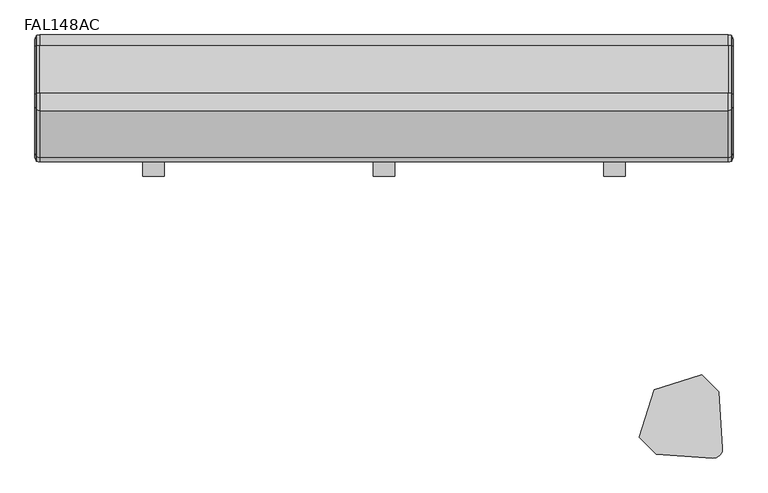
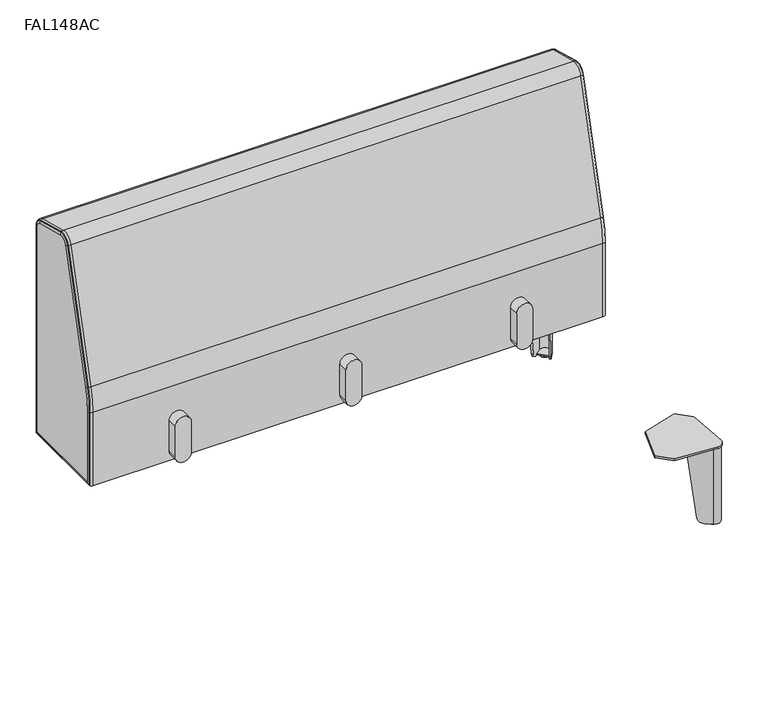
"""IFC4 building model written with IfcOpenShell, lengths in millimetres: furniture geometry, Stance_HC-Flora-Seat_Straight : FAL148AC."""

from ifc_helpers import new_model, si_unit, point, frame, frame_2d, origin, origin_with_axes, place, context, project, spatial, polyline, circle_curve, ellipse_curve, trimmed, segment, composite_curve, outline, extrude, source, transform, mapped, element, save
from ifc_brep_helpers import plane_surface, cylinder_surface, revolved_surface, advanced_brep


def fal148ac_3be93279(model_context):
    return source(origin(), model_context, "Body", "SolidModel", [
        extrude(outline(composite_curve([segment(polyline([(298.45, 596.9), (222.25, 596.9)]), True, "CONTINUOUS"), segment(trimmed(circle_curve(frame_2d((222.25, 615.95)), 19.05), [point((222.25, 596.9))], [point((222.25, 635.0))], False, "CARTESIAN"), True, "CONTINUOUS"), segment(polyline([(222.25, 635.0), (298.45, 635.0)]), True, "CONTINUOUS"), segment(trimmed(circle_curve(frame_2d((298.45, 615.95)), 19.05), [point((298.45, 635.0))], [point((298.45, 596.9))], False, "CARTESIAN"), True, "CONTINUOUS")], self_intersect=False)), frame((0.0, -249.250193, 0.0), z_axis=(0.0, 1.0, 0.0), x_axis=(0.0, 0.0, 1.0)), (0.0, 0.0, 1.0), 25.3999939),
        extrude(outline(composite_curve([segment(polyline([(298.45, 1003.3), (222.25, 1003.3)]), True, "CONTINUOUS"), segment(trimmed(circle_curve(frame_2d((222.25, 1022.35)), 19.05), [point((222.25, 1003.3))], [point((222.25, 1041.4))], False, "CARTESIAN"), True, "CONTINUOUS"), segment(polyline([(222.25, 1041.4), (298.45, 1041.4)]), True, "CONTINUOUS"), segment(trimmed(circle_curve(frame_2d((298.45, 1022.35)), 19.05), [point((298.45, 1041.4))], [point((298.45, 1003.3))], False, "CARTESIAN"), True, "CONTINUOUS")], self_intersect=False)), frame((0.0, -249.250193, 0.0), z_axis=(0.0, 1.0, 0.0), x_axis=(0.0, 0.0, 1.0)), (0.0, 0.0, 1.0), 25.3999939),
        extrude(outline(composite_curve([segment(polyline([(298.45, 190.5), (222.25, 190.5)]), True, "CONTINUOUS"), segment(trimmed(circle_curve(frame_2d((222.25, 209.55)), 19.05), [point((222.25, 190.5))], [point((222.25, 228.6))], False, "CARTESIAN"), True, "CONTINUOUS"), segment(polyline([(222.25, 228.6), (298.45, 228.6)]), True, "CONTINUOUS"), segment(trimmed(circle_curve(frame_2d((298.45, 209.55)), 19.05), [point((298.45, 228.6))], [point((298.45, 190.5))], False, "CARTESIAN"), True, "CONTINUOUS")], self_intersect=False)), frame((0.0, -249.250193, 0.0), z_axis=(0.0, 1.0, 0.0), x_axis=(0.0, 0.0, 1.0)), (0.0, 0.0, 1.0), 25.3999939),
        extrude(outline(composite_curve([segment(polyline([(1176.0692791, -32.5186459), (1189.3741789, -23.2024186)]), True, "CONTINUOUS"), segment(trimmed(circle_curve(frame_2d((1196.0246983, -32.7003078)), 11.5947965), [point((1189.3741789, -23.2024186))], [point((1205.5225874, -39.3508272))], False, "CARTESIAN"), True, "CONTINUOUS"), segment(polyline([(1205.5225874, -39.3508272), (1196.2063601, -52.6557269), (1176.0692791, -32.5186459)]), True, "CONTINUOUS")], self_intersect=False)), frame((0.0, 0.0, 3.175), z_axis=(0.0, 0.0, 1.0), x_axis=(1.0, 0.0, 0.0)), (0.0, 0.0, 1.0), 3.3792927),
        advanced_brep(
        [(1176.2314582, -86.7866368, 193.6877233), (1208.1555647, -41.1944649, 193.6877233), (1187.5305412, -20.5694413, 193.6877233), (1141.9383719, -52.4935459, 193.6877233), (1143.7820096, -55.1265233, 193.6877233), (1189.3741789, -23.2024186, 193.6877233), (1205.5225874, -39.3508272, 193.6877233), (1173.5984809, -84.9429991, 193.6877233), (1176.2314582, -86.7866368, 189.1419595), (1205.5225874, -39.3508272, 3.1876992), (1195.4018779, -53.8046422, 3.1876992), (1186.2247818, -66.9108427, 17.1280233), (1189.3741789, -23.2024186, 3.1876992), (1161.8141633, -42.5002243, 17.1280233), (1174.9203639, -33.3231282, 3.1876992), (1141.9383719, -52.4935459, 189.1419334), (1187.5305412, -20.5694413, 3.1876992), (1172.6124662, -31.0152305, 3.1876992), (1159.5062656, -40.1923266, 17.1280233), (1208.1555647, -41.1944649, 3.1876992), (1188.5326795, -69.2187405, 17.1280233), (1197.7097756, -56.1125399, 3.1876992)],
        [
            (0, 1),
            (1, 2, circle_curve(frame((1196.0246983, -32.7003078, 193.6877233), z_axis=(0.0, 0.0, 1.0), x_axis=(-1.0, 0.0, 0.0)), 14.8090724)),
            (2, 3),
            (3, 4),
            (4, 5),
            (5, 6, circle_curve(frame((1196.0246983, -32.7003078, 193.6877233), z_axis=(0.0, 0.0, -1.0), x_axis=(-1.0, 0.0, 0.0)), 11.5947965)),
            (6, 7),
            (7, 0),
            (7, 8),
            (8, 0),
            (6, 9),
            (9, 10),
            (10, 11, ellipse_curve(frame((1195.4018779, -53.8046422, 19.0626992), z_axis=(-0.8191509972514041, 0.5735779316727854, 0.0), x_axis=(-0.5735779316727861, -0.8191509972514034, 0.0)), 16.1198923, 15.875)),
            (11, 7),
            (5, 12),
            (12, 9, circle_curve(frame((1196.0246983, -32.7003078, 3.1876992), z_axis=(0.0, 0.0, -1.0), x_axis=(-1.0, 0.0, 0.0)), 11.5947965)),
            (4, 13),
            (13, 14, ellipse_curve(frame((1174.9203639, -33.3231282, 19.0626992), z_axis=(0.5735779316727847, -0.8191509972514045, 0.0), x_axis=(0.8191509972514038, 0.5735779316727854, 0.0)), 16.1198923, 15.875)),
            (14, 12),
            (3, 15),
            (15, 4),
            (2, 16),
            (16, 17),
            (17, 18, ellipse_curve(frame((1172.6124662, -31.0152305, 19.0626992), z_axis=(-0.5735779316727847, 0.8191509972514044, 0.0), x_axis=(0.8191509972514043, 0.573577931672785, 0.0)), 16.1198923, 15.875)),
            (18, 15),
            (1, 19),
            (19, 16, circle_curve(frame((1196.0246983, -32.7003078, 3.1876992), z_axis=(0.0, 0.0, 1.0), x_axis=(-1.0, 0.0, 0.0)), 14.8090724)),
            (8, 20),
            (20, 21, ellipse_curve(frame((1197.7097756, -56.1125399, 19.0626992), z_axis=(0.8191509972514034, -0.5735779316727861, 0.0), x_axis=(-0.5735779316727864, -0.8191509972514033, 0.0)), 16.1198923, 15.875)),
            (21, 19),
            (18, 13),
            (11, 20),
            (21, 10),
            (14, 17),
        ],
        [
            plane_surface(frame((1173.5984809, -84.9429991, 193.6877233), z_axis=(0.0, 0.0, 1.0000000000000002), x_axis=(-0.8191509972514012, 0.5735779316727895, 0.0))),
            plane_surface(frame((1176.2314582, -86.7866368, 193.6877233), z_axis=(-0.5735779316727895, -0.8191509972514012, 0.0), x_axis=(0.0, 0.0, -1.0))),
            plane_surface(frame((1173.5984809, -84.9429991, 193.6877233), z_axis=(-0.8191509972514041, 0.5735779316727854, 0.0), x_axis=(0.0, 0.0, -1.0))),
            revolved_surface(polyline([(1184.4299018, -32.7003078, 3.1876992), (1184.4299018, -32.7003078, 193.6877233)]), (1196.0246983, -32.7003078, 0.0), (0.0, 0.0, -1.0)),
            plane_surface(frame((1189.3741789, -23.2024186, 193.6877233), z_axis=(0.5735779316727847, -0.8191509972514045, 0.0), x_axis=(0.0, 0.0, -1.0))),
            plane_surface(frame((1143.7820096, -55.1265233, 193.6877233), z_axis=(-0.8191509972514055, -0.5735779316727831, 0.0), x_axis=(0.0, 0.0, -1.0))),
            plane_surface(frame((1141.9383719, -52.4935459, 193.6877233), z_axis=(-0.5735779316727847, 0.8191509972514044, 0.0), x_axis=(0.0, 0.0, -1.0))),
            cylinder_surface(frame((1196.0246983, -32.7003078, 0.0), z_axis=(0.0, 0.0, 1.0), x_axis=(-1.0, 0.0, 0.0)), 14.8090724),
            plane_surface(frame((1208.1555647, -41.1944649, 193.6877233), z_axis=(0.8191509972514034, -0.5735779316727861, 0.0), x_axis=(0.0, 0.0, -1.0))),
            plane_surface(frame((1153.6224625, -34.3085234, 17.1280233), z_axis=(-0.7018361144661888, -0.7018361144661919, -0.12186934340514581), x_axis=(0.7071067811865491, -0.707106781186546, 0.0))),
            plane_surface(frame((1186.112818, -1.818168, 3.1876992), z_axis=(0.0, 0.0, -1.0), x_axis=(0.707106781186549, -0.707106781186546, 0.0))),
            cylinder_surface(frame((1205.5497538, -63.9525182, 19.0626992), z_axis=(0.7071067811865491, -0.707106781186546, 0.0), x_axis=(-0.707106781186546, -0.7071067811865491, 0.0)), 15.875),
        ],
        [
            (0, [[1, 2, 3, 4, 5, 6, 7, 8]]),
            (1, [[9, 10, -8]]),
            (2, [[11, 12, 13, 14, -7]]),
            (3, [[15, 16, -11, -6]]),
            (4, [[17, 18, 19, -15, -5]]),
            (5, [[20, 21, -4]]),
            (6, [[22, 23, 24, 25, -20, -3]]),
            (7, [[26, 27, -22, -2]]),
            (8, [[-10, 28, 29, 30, -26, -1]]),
            (9, [[-17, -21, -25, 31]]),
            (9, [[-28, -9, -14, 32]]),
            (10, [[-23, -27, -30, 33, -12, -16, -19, 34]]),
            (11, [[-13, -33, -29, -32]]),
            (11, [[-24, -34, -18, -31]]),
        ],
    ),
        extrude(outline(composite_curve([segment(trimmed(circle_curve(frame_2d((1193.9913541, -34.7252749)), 11.1125), [point((1205.1038541, -34.7252749))], [point((1182.8788541, -34.7252749))], False, "CARTESIAN"), True, "CONTINUOUS"), segment(trimmed(circle_curve(frame_2d((1193.9913541, -34.7252749)), 11.1125), [point((1182.8788541, -34.7252749))], [point((1205.1038541, -34.7252749))], False, "CARTESIAN"), True, "CONTINUOUS")], self_intersect=False)), origin_with_axes(), (0.0, 0.0, 1.0), 3.175),
        extrude(outline(composite_curve([segment(trimmed(circle_curve(frame_2d((1197.3438064, -31.3811988)), 15.8749964), [point((1196.2364228, -15.5448732))], [point((1213.1801321, -32.4885822))], False, "CARTESIAN"), True, "CONTINUOUS"), segment(polyline([(1213.1801321, -32.4885822), (1206.1831602, -132.5499778), (1176.3327865, -162.4003462), (1092.3896864, -136.3353271), (1066.3246518, -52.3922188), (1096.1750239, -22.5418467), (1196.2364228, -15.5448732)]), True, "CONTINUOUS")], self_intersect=False)), frame((0.0, 0.0, 193.6877233), z_axis=(0.0, 0.0, 1.0), x_axis=(1.0, 0.0, 0.0)), (0.0, 0.0, 1.0), 4.7751809),
        extrude(outline(composite_curve([segment(polyline([(1176.0692791, -729.4814086), (1196.2063601, -709.3443276), (1205.5225874, -722.6492273)]), True, "CONTINUOUS"), segment(trimmed(circle_curve(frame_2d((1196.0246983, -729.2997467)), 11.5947965), [point((1205.5225874, -722.6492273))], [point((1189.3741789, -738.7976359))], False, "CARTESIAN"), True, "CONTINUOUS"), segment(polyline([(1189.3741789, -738.7976359), (1176.0692791, -729.4814086)]), True, "CONTINUOUS")], self_intersect=False)), frame((0.0, 0.0, 3.175), z_axis=(0.0, 0.0, 1.0), x_axis=(1.0, 0.0, 0.0)), (0.0, 0.0, 1.0), 3.3792927),
        advanced_brep(
        [(1176.2314582, -675.2134177, 193.6877233), (1173.5984809, -677.0570554, 193.6877233), (1205.5225874, -722.6492273, 193.6877233), (1189.3741789, -738.7976359, 193.6877233), (1143.7820096, -706.8735312, 193.6877233), (1141.9383719, -709.5065086, 193.6877233), (1187.5305412, -741.4306132, 193.6877233), (1208.1555647, -720.8055896, 193.6877233), (1176.2314582, -675.2134177, 189.1419595), (1186.2247818, -695.0892118, 17.1280233), (1195.4018779, -708.1954123, 3.1876992), (1205.5225874, -722.6492273, 3.1876992), (1189.3741789, -738.7976359, 3.1876992), (1174.9203639, -728.6769263, 3.1876992), (1161.8141633, -719.4998302, 17.1280233), (1141.9383719, -709.5065086, 189.1419334), (1159.5062656, -721.8077279, 17.1280233), (1172.6124662, -730.984824, 3.1876992), (1187.5305412, -741.4306132, 3.1876992), (1208.1555647, -720.8055896, 3.1876992), (1197.7097756, -705.8875146, 3.1876992), (1188.5326795, -692.781314, 17.1280233)],
        [
            (0, 1),
            (1, 2),
            (2, 3, circle_curve(frame((1196.0246983, -729.2997467, 193.6877233), z_axis=(0.0, 0.0, -1.0), x_axis=(-1.0, 0.0, 0.0)), 11.5947965)),
            (3, 4),
            (4, 5),
            (5, 6),
            (6, 7, circle_curve(frame((1196.0246983, -729.2997467, 193.6877233), z_axis=(0.0, 0.0, 1.0), x_axis=(-1.0, 0.0, 0.0)), 14.8090724)),
            (7, 0),
            (0, 8),
            (8, 1),
            (1, 9),
            (9, 10, ellipse_curve(frame((1195.4018779, -708.1954123, 19.0626992), z_axis=(-0.8191509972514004, -0.5735779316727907, 0.0), x_axis=(-0.5735779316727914, 0.8191509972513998, 0.0)), 16.1198923, 15.875)),
            (10, 11),
            (11, 2),
            (11, 12, circle_curve(frame((1196.0246983, -729.2997467, 3.1876992), z_axis=(0.0, 0.0, -1.0), x_axis=(-1.0, 0.0, 0.0)), 11.5947965)),
            (12, 3),
            (12, 13),
            (13, 14, ellipse_curve(frame((1174.9203639, -728.6769263, 19.0626992), z_axis=(0.5735779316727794, 0.8191509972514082, 0.0), x_axis=(0.8191509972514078, -0.5735779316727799, 0.0)), 16.1198923, 15.875)),
            (14, 4),
            (4, 15),
            (15, 5),
            (15, 16),
            (16, 17, ellipse_curve(frame((1172.6124662, -730.984824, 19.0626992), z_axis=(-0.5735779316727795, -0.8191509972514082, 0.0), x_axis=(0.8191509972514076, -0.5735779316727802, 0.0)), 16.1198923, 15.875)),
            (17, 18),
            (18, 6),
            (18, 19, circle_curve(frame((1196.0246983, -729.2997467, 3.1876992), z_axis=(0.0, 0.0, 1.0), x_axis=(-1.0, 0.0, 0.0)), 14.8090724)),
            (19, 7),
            (19, 20),
            (20, 21, ellipse_curve(frame((1197.7097756, -705.8875146, 19.0626992), z_axis=(0.8191509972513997, 0.5735779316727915, 0.0), x_axis=(-0.573577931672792, 0.8191509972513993, 0.0)), 16.1198923, 15.875)),
            (21, 8),
            (14, 16),
            (21, 9),
            (17, 13),
            (10, 20),
        ],
        [
            plane_surface(frame((1173.5984809, -677.0570554, 193.6877233), z_axis=(0.0, 0.0, 0.9999999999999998), x_axis=(-0.8191509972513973, -0.5735779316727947, 0.0))),
            plane_surface(frame((1176.2314582, -675.2134177, 193.6877233), z_axis=(-0.5735779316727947, 0.8191509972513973, 0.0), x_axis=(0.0, 0.0, -1.0))),
            plane_surface(frame((1173.5984809, -677.0570554, 193.6877233), z_axis=(-0.8191509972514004, -0.5735779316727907, 0.0), x_axis=(0.0, 0.0, -1.0))),
            revolved_surface(polyline([(1184.4299018, -729.2997467, 3.1876992), (1184.4299018, -729.2997467, 193.6877233)]), (1196.0246983, -729.2997467, 0.0), (0.0, 0.0, -1.0)),
            plane_surface(frame((1189.3741789, -738.7976359, 193.6877233), z_axis=(0.5735779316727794, 0.8191509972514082, 0.0), x_axis=(0.0, 0.0, -1.0))),
            plane_surface(frame((1143.7820096, -706.8735312, 193.6877233), z_axis=(-0.8191509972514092, 0.5735779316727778, 0.0), x_axis=(0.0, 0.0, -1.0))),
            plane_surface(frame((1141.9383719, -709.5065086, 193.6877233), z_axis=(-0.5735779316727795, -0.8191509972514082, 0.0), x_axis=(0.0, 0.0, -1.0))),
            cylinder_surface(frame((1196.0246983, -729.2997467, 0.0), z_axis=(0.0, 0.0, 1.0), x_axis=(-1.0, 0.0, 0.0)), 14.8090724),
            plane_surface(frame((1208.1555647, -720.8055896, 193.6877233), z_axis=(0.8191509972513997, 0.5735779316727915, 0.0), x_axis=(0.0, 0.0, -1.0))),
            plane_surface(frame((1153.6224625, -727.6915311, 17.1280233), z_axis=(-0.7018361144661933, 0.7018361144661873, -0.12186934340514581), x_axis=(0.7071067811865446, 0.7071067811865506, 0.0))),
            plane_surface(frame((1186.112818, -760.1818865, 3.1876992), z_axis=(0.0, 0.0, -1.0), x_axis=(0.7071067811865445, 0.7071067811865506, 0.0))),
            cylinder_surface(frame((1205.5497538, -698.0475363, 19.0626992), z_axis=(0.7071067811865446, 0.7071067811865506, 0.0), x_axis=(-0.7071067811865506, 0.7071067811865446, 0.0)), 15.875),
        ],
        [
            (0, [[1, 2, 3, 4, 5, 6, 7, 8]]),
            (1, [[-1, 9, 10]]),
            (2, [[-2, 11, 12, 13, 14]]),
            (3, [[-3, -14, 15, 16]]),
            (4, [[-4, -16, 17, 18, 19]]),
            (5, [[-5, 20, 21]]),
            (6, [[-6, -21, 22, 23, 24, 25]]),
            (7, [[-7, -25, 26, 27]]),
            (8, [[-8, -27, 28, 29, 30, -9]]),
            (9, [[31, -22, -20, -19]]),
            (9, [[32, -11, -10, -30]]),
            (10, [[33, -17, -15, -13, 34, -28, -26, -24]]),
            (11, [[-31, -18, -33, -23]]),
            (11, [[-32, -29, -34, -12]]),
        ],
    ),
        extrude(outline(composite_curve([segment(trimmed(circle_curve(frame_2d((1193.9913541, -727.2747796)), 11.1125), [point((1205.1038541, -727.2747796))], [point((1182.8788541, -727.2747796))], False, "CARTESIAN"), True, "CONTINUOUS"), segment(trimmed(circle_curve(frame_2d((1193.9913541, -727.2747796)), 11.1125), [point((1182.8788541, -727.2747796))], [point((1205.1038541, -727.2747796))], False, "CARTESIAN"), True, "CONTINUOUS")], self_intersect=False)), origin_with_axes(), (0.0, 0.0, 1.0), 3.175),
        extrude(outline(composite_curve([segment(polyline([(1196.2364228, -746.4551813), (1096.1750239, -739.4582078), (1066.3246518, -709.6078357), (1092.3896864, -625.6647274), (1176.3327865, -599.5997083), (1206.1831602, -629.4500767), (1213.1801321, -729.5114723)]), True, "CONTINUOUS"), segment(trimmed(circle_curve(frame_2d((1197.3438064, -730.6188557)), 15.8749964), [point((1213.1801321, -729.5114723))], [point((1196.2364228, -746.4551813))], False, "CARTESIAN"), True, "CONTINUOUS")], self_intersect=False)), frame((0.0, 0.0, 193.6877233), z_axis=(0.0, 0.0, 1.0), x_axis=(1.0, 0.0, 0.0)), (0.0, 0.0, 1.0), 4.7751809),
        advanced_brep(
        [(1231.9, -215.1189491, 207.1687439), (1231.9, -8.73125, 207.1687439), (1231.9, -8.73125, 722.1009668), (1231.9, -21.0858009, 738.2017405), (1231.9, -104.6844084, 760.6019706), (1231.9, -125.0993835, 748.8153873), (1231.9, -207.6271017, 440.8177792), (1231.9, -215.1189491, 383.9115542), (0.0, -8.73125, 207.1687439), (0.0, -215.1189491, 207.1687439), (0.0, -215.1189491, 383.9115542), (0.0, -207.6271017, 440.8177792), (0.0, -125.0993835, 748.8153873), (0.0, -104.6844084, 760.6019706), (0.0, -21.0858009, 738.2017405), (0.0, -8.73125, 722.1009668), (1223.4158065, -223.8501991, 198.4374939), (8.4841935, -223.8501991, 198.4374939), (8.4841935, 0.0, 198.4374939), (1223.4158065, 0.0, 198.4374939), (1223.4158065, -18.8259823, 746.6354791), (8.4841935, -18.8259823, 746.6354791), (8.4841935, -102.4245898, 769.0357092), (1223.4158065, -102.4245898, 769.0357092), (2.6434528, -220.8119186, 201.4757744), (2.6434528, -3.0382805, 201.4757744), (2.5810757, -1.1045908, 199.5420847), (2.5810757, -222.7456083, 199.5420847), (2.6434528, -19.6123489, 743.7007259), (2.6434528, -103.2109563, 766.1009561), (2.5810757, -102.7104795, 767.9687566), (2.5810757, -19.1118721, 745.5685265), (1229.3189243, -1.1045908, 199.5420847), (1229.3189243, -222.7456083, 199.5420847), (1229.2565472, -3.0382805, 201.4757744), (1229.2565472, -220.8119186, 201.4757744), (1229.3189243, -102.7104795, 767.9687566), (1229.3189243, -19.1118721, 745.5685265), (1229.2565472, -103.2109563, 766.1009561), (1229.2565472, -19.6123489, 743.7007259), (1223.4158065, 0.0, 722.1009668), (1229.3189243, -1.1045908, 722.1009668), (1229.2565472, -3.0382805, 722.1009668), (2.6434528, -3.0382805, 722.1009668), (2.5810757, -1.1045908, 722.1009668), (8.4841935, 0.0, 722.1009668), (1223.4158065, -133.5331233, 751.0752013), (1229.3189243, -132.4661705, 750.7893121), (1229.2565472, -130.5983697, 750.2888364), (2.6434528, -130.5983697, 750.2888364), (2.5810757, -132.4661705, 750.7893121), (8.4841935, -133.5331233, 751.0752013), (1223.4158065, -216.0608416, 443.0775932), (1229.3189243, -214.9938888, 442.791704), (1229.2565472, -213.126088, 442.2912283), (2.6434528, -213.126088, 442.2912283), (2.5810757, -214.9938888, 442.791704), (8.4841935, -216.0608416, 443.0775932), (1223.4158065, -223.8501991, 383.9115542), (1229.3189243, -222.7456083, 383.9115542), (1229.2565472, -220.8119186, 383.9115542), (2.6434528, -220.8119186, 383.9115542), (2.5810757, -222.7456083, 383.9115542), (8.4841935, -223.8501991, 383.9115542)],
        [
            (0, 1),
            (1, 2),
            (2, 3, circle_curve(frame((1231.9, -25.4, 722.1009668), z_axis=(1.0, 0.0, 0.0), x_axis=(0.0, 1.0, 0.0)), 16.66875)),
            (3, 4),
            (4, 5, circle_curve(frame((1231.9, -108.9986074, 744.501197), z_axis=(1.0, 0.0, 0.0), x_axis=(0.0, 0.25881959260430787, 0.9659256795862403)), 16.66875)),
            (5, 6),
            (6, 7, circle_curve(frame((1231.9, 4.7498009, 383.9115542), z_axis=(1.0, 0.0, 0.0), x_axis=(0.0, -0.9659258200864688, 0.25881906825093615)), 219.86875)),
            (7, 0),
            (8, 9),
            (9, 10),
            (10, 11, circle_curve(frame((0.0, 4.7498009, 383.9115542), z_axis=(-1.0, 0.0, 0.0), x_axis=(0.0, -0.9659258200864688, 0.25881906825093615)), 219.86875)),
            (11, 12),
            (12, 13, circle_curve(frame((0.0, -108.9986074, 744.501197), z_axis=(-1.0, 0.0, 0.0), x_axis=(0.0, 0.25881959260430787, 0.9659256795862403)), 16.66875)),
            (13, 14),
            (14, 15, circle_curve(frame((0.0, -25.4, 722.1009668), z_axis=(-1.0, 0.0, 0.0), x_axis=(0.0, 1.0, 0.0)), 16.66875)),
            (15, 8),
            (16, 17),
            (17, 18),
            (18, 19),
            (19, 16),
            (20, 21),
            (21, 22),
            (22, 23),
            (23, 20),
            (24, 9, ellipse_curve(frame((7.4519478, -215.1189491, 207.1687439), z_axis=(0.0, 0.707106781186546, -0.7071067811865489), x_axis=(0.0, -0.7071067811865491, -0.7071067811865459)), 10.5386456, 7.4519478)),
            (8, 25, ellipse_curve(frame((7.4519478, -8.73125, 207.1687439), z_axis=(0.0, -0.707106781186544, -0.707106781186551), x_axis=(0.0, -0.7071067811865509, 0.707106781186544)), 10.5386456, 7.4519478)),
            (25, 24),
            (25, 26, ellipse_curve(frame((2.9517888, -2.0604832, 200.4979772), z_axis=(0.0, -0.707106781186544, -0.707106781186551), x_axis=(0.0, -0.7071067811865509, 0.707106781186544)), 1.4499369, 1.0252602)),
            (26, 27),
            (27, 24, ellipse_curve(frame((2.9517888, -221.7897159, 200.4979772), z_axis=(0.0, 0.707106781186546, -0.7071067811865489), x_axis=(0.0, -0.7071067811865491, -0.7071067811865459)), 1.4499369, 1.0252602)),
            (17, 27, ellipse_curve(frame((8.4841935, -207.52428, 214.763413), z_axis=(0.0, 0.707106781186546, -0.7071067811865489), x_axis=(0.0, -0.7071067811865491, -0.7071067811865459)), 23.0883362, 16.3259191)),
            (26, 18, ellipse_curve(frame((8.4841935, -16.3259191, 214.763413), z_axis=(0.0, -0.707106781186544, -0.707106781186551), x_axis=(0.0, -0.7071067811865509, 0.707106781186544)), 23.0883362, 16.3259191)),
            (28, 14, circle_curve(frame((7.4519478, -21.0858009, 738.2017405), z_axis=(0.0, -0.9659256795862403, 0.2588195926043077), x_axis=(0.0, -0.2588195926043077, -0.9659256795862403)), 7.4519478)),
            (13, 29, circle_curve(frame((7.4519478, -104.6844084, 760.6019706), z_axis=(0.0, 0.9659256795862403, -0.2588195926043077), x_axis=(0.0, -0.2588195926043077, -0.9659256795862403)), 7.4519478)),
            (29, 28),
            (29, 30, circle_curve(frame((2.9517888, -102.9578832, 767.0454356), z_axis=(0.0, 0.9659256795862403, -0.2588195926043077), x_axis=(0.0, -0.2588195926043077, -0.9659256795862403)), 1.0252602)),
            (30, 31),
            (31, 28, circle_curve(frame((2.9517888, -19.3592758, 744.6452054), z_axis=(0.0, -0.9659256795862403, 0.2588195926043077), x_axis=(0.0, -0.2588195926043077, -0.9659256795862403)), 1.0252602)),
            (21, 31, circle_curve(frame((8.4841935, -23.0514501, 730.8658546), z_axis=(0.0, -0.9659256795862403, 0.2588195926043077), x_axis=(0.0, -0.2588195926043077, -0.9659256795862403)), 16.3259191)),
            (30, 22, circle_curve(frame((8.4841935, -106.6500575, 753.2660847), z_axis=(0.0, 0.9659256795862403, -0.2588195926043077), x_axis=(0.0, -0.2588195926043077, -0.9659256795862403)), 16.3259191)),
            (19, 32, ellipse_curve(frame((1223.4158065, -16.3259191, 214.763413), z_axis=(0.0, -0.707106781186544, -0.707106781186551), x_axis=(0.0, -0.7071067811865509, 0.707106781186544)), 23.0883362, 16.3259191)),
            (32, 33),
            (33, 16, ellipse_curve(frame((1223.4158065, -207.52428, 214.763413), z_axis=(0.0, 0.707106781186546, -0.7071067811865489), x_axis=(0.0, -0.7071067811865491, -0.7071067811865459)), 23.0883362, 16.3259191)),
            (32, 34, ellipse_curve(frame((1228.9482112, -2.0604832, 200.4979772), z_axis=(0.0, -0.707106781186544, -0.707106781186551), x_axis=(0.0, -0.7071067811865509, 0.707106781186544)), 1.4499369, 1.0252602)),
            (34, 35),
            (35, 33, ellipse_curve(frame((1228.9482112, -221.7897159, 200.4979772), z_axis=(0.0, 0.707106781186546, -0.7071067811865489), x_axis=(0.0, -0.7071067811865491, -0.7071067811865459)), 1.4499369, 1.0252602)),
            (34, 1, ellipse_curve(frame((1224.4480522, -8.73125, 207.1687439), z_axis=(0.0, -0.707106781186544, -0.707106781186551), x_axis=(0.0, -0.7071067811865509, 0.707106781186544)), 10.5386456, 7.4519478)),
            (0, 35, ellipse_curve(frame((1224.4480522, -215.1189491, 207.1687439), z_axis=(0.0, 0.707106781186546, -0.7071067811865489), x_axis=(0.0, -0.7071067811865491, -0.7071067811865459)), 10.5386456, 7.4519478)),
            (23, 36, circle_curve(frame((1223.4158065, -106.6500575, 753.2660847), z_axis=(0.0, 0.9659256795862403, -0.2588195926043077), x_axis=(0.0, -0.2588195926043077, -0.9659256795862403)), 16.3259191)),
            (36, 37),
            (37, 20, circle_curve(frame((1223.4158065, -23.0514501, 730.8658546), z_axis=(0.0, -0.9659256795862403, 0.2588195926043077), x_axis=(0.0, -0.2588195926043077, -0.9659256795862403)), 16.3259191)),
            (36, 38, circle_curve(frame((1228.9482112, -102.9578832, 767.0454356), z_axis=(0.0, 0.9659256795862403, -0.2588195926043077), x_axis=(0.0, -0.2588195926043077, -0.9659256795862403)), 1.0252602)),
            (38, 39),
            (39, 37, circle_curve(frame((1228.9482112, -19.3592758, 744.6452054), z_axis=(0.0, -0.9659256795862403, 0.2588195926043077), x_axis=(0.0, -0.2588195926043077, -0.9659256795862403)), 1.0252602)),
            (38, 4, circle_curve(frame((1224.4480522, -104.6844084, 760.6019706), z_axis=(0.0, 0.9659256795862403, -0.2588195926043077), x_axis=(0.0, -0.2588195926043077, -0.9659256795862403)), 7.4519478)),
            (3, 39, circle_curve(frame((1224.4480522, -21.0858009, 738.2017405), z_axis=(0.0, -0.9659256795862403, 0.2588195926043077), x_axis=(0.0, -0.2588195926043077, -0.9659256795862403)), 7.4519478)),
            (19, 40),
            (40, 41, circle_curve(frame((1223.4158065, -16.3259191, 722.1009668), z_axis=(0.0, 0.0, -1.0), x_axis=(0.0, -1.0, 0.0)), 16.3259191)),
            (41, 32),
            (41, 42, circle_curve(frame((1228.9482112, -2.0604832, 722.1009668), z_axis=(0.0, 0.0, -1.0), x_axis=(0.0, -1.0, 0.0)), 1.0252602)),
            (42, 34),
            (42, 2, circle_curve(frame((1224.4480522, -8.73125, 722.1009668), z_axis=(0.0, 0.0, -1.0), x_axis=(0.0, -1.0, 0.0)), 7.4519478)),
            (15, 43, circle_curve(frame((7.4519478, -8.73125, 722.1009668), z_axis=(0.0, 0.0, -1.0), x_axis=(0.0, -1.0, 0.0)), 7.4519478)),
            (43, 25),
            (43, 44, circle_curve(frame((2.9517888, -2.0604832, 722.1009668), z_axis=(0.0, 0.0, -1.0), x_axis=(0.0, -1.0, 0.0)), 1.0252602)),
            (44, 26),
            (44, 45, circle_curve(frame((8.4841935, -16.3259191, 722.1009668), z_axis=(0.0, 0.0, -1.0), x_axis=(0.0, -1.0, 0.0)), 16.3259191)),
            (45, 18),
            (45, 40),
            (37, 41, circle_curve(frame((1229.3189243, -25.4, 722.1009668), z_axis=(-1.0, 0.0, 0.0), x_axis=(0.0, 1.0, 0.0)), 24.2954092)),
            (40, 20, circle_curve(frame((1223.4158065, -25.4, 722.1009668), z_axis=(1.0, 0.0, 0.0), x_axis=(0.0, 1.0, 0.0)), 25.4)),
            (39, 42, circle_curve(frame((1229.2565472, -25.4, 722.1009668), z_axis=(-1.0, 0.0, 0.0), x_axis=(0.0, 1.0, 0.0)), 22.3617195)),
            (28, 43, circle_curve(frame((2.6434528, -25.4, 722.1009668), z_axis=(-1.0, 0.0, 0.0), x_axis=(0.0, 1.0, 0.0)), 22.3617195)),
            (31, 44, circle_curve(frame((2.5810757, -25.4, 722.1009668), z_axis=(-1.0, 0.0, 0.0), x_axis=(0.0, 1.0, 0.0)), 24.2954092)),
            (21, 45, circle_curve(frame((8.4841935, -25.4, 722.1009668), z_axis=(-1.0, 0.0, 0.0), x_axis=(0.0, 1.0, 0.0)), 25.4)),
            (23, 46, circle_curve(frame((1223.4158065, -108.9986074, 744.501197), z_axis=(1.0, 0.0, 0.0), x_axis=(0.0, 0.25881959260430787, 0.9659256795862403)), 25.4)),
            (46, 47, circle_curve(frame((1223.4158065, -117.7634965, 746.8497421), z_axis=(0.0, 0.2588190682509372, 0.9659258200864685), x_axis=(0.0, 0.9659258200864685, -0.2588190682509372)), 16.3259191)),
            (47, 36, circle_curve(frame((1229.3189243, -108.9986074, 744.501197), z_axis=(-1.0, 0.0, 0.0), x_axis=(0.0, 0.25881959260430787, 0.9659256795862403)), 24.2954092)),
            (47, 48, circle_curve(frame((1228.9482112, -131.5428493, 750.5419089), z_axis=(0.0, 0.25881906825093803, 0.9659258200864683), x_axis=(0.0, 0.9659258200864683, -0.25881906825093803)), 1.0252602)),
            (48, 38, circle_curve(frame((1229.2565472, -108.9986074, 744.501197), z_axis=(-1.0, 0.0, 0.0), x_axis=(0.0, 0.25881959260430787, 0.9659256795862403)), 22.3617195)),
            (48, 5, circle_curve(frame((1224.4480522, -125.0993835, 748.8153873), z_axis=(0.0, 0.2588190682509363, 0.9659258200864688), x_axis=(0.0, 0.9659258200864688, -0.2588190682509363)), 7.4519478)),
            (12, 49, circle_curve(frame((7.4519478, -125.0993835, 748.8153873), z_axis=(0.0, 0.25881906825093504, 0.9659258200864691), x_axis=(0.0, 0.9659258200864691, -0.25881906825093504)), 7.4519478)),
            (49, 29, circle_curve(frame((2.6434528, -108.9986074, 744.501197), z_axis=(-1.0, 0.0, 0.0), x_axis=(0.0, 0.25881959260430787, 0.9659256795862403)), 22.3617195)),
            (49, 50, circle_curve(frame((2.9517888, -131.5428493, 750.5419089), z_axis=(0.0, 0.2588190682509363, 0.9659258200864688), x_axis=(0.0, 0.9659258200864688, -0.2588190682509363)), 1.0252602)),
            (50, 30, circle_curve(frame((2.5810757, -108.9986074, 744.501197), z_axis=(-1.0, 0.0, 0.0), x_axis=(0.0, 0.25881959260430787, 0.9659256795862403)), 24.2954092)),
            (50, 51, circle_curve(frame((8.4841935, -117.7634965, 746.8497421), z_axis=(0.0, 0.25881906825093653, 0.9659258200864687), x_axis=(0.0, 0.9659258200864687, -0.25881906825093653)), 16.3259191)),
            (51, 22, circle_curve(frame((8.4841935, -108.9986074, 744.501197), z_axis=(-1.0, 0.0, 0.0), x_axis=(0.0, 0.25881959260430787, 0.9659256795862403)), 25.4)),
            (51, 46),
            (46, 52),
            (52, 53, circle_curve(frame((1223.4158065, -200.2912148, 438.852134), z_axis=(0.0, 0.25881906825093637, 0.9659258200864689), x_axis=(0.0, 0.9659258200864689, -0.25881906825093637)), 16.3259191)),
            (53, 47),
            (53, 54, circle_curve(frame((1228.9482112, -214.0705676, 442.5443008), z_axis=(0.0, 0.25881906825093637, 0.9659258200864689), x_axis=(0.0, 0.9659258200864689, -0.25881906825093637)), 1.0252602)),
            (54, 48),
            (54, 6, circle_curve(frame((1224.4480522, -207.6271017, 440.8177792), z_axis=(0.0, 0.25881906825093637, 0.9659258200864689), x_axis=(0.0, 0.9659258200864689, -0.25881906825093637)), 7.4519478)),
            (11, 55, circle_curve(frame((7.4519478, -207.6271017, 440.8177792), z_axis=(0.0, 0.25881906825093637, 0.9659258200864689), x_axis=(0.0, 0.9659258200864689, -0.25881906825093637)), 7.4519478)),
            (55, 49),
            (55, 56, circle_curve(frame((2.9517888, -214.0705676, 442.5443008), z_axis=(0.0, 0.25881906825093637, 0.9659258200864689), x_axis=(0.0, 0.9659258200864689, -0.25881906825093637)), 1.0252602)),
            (56, 50),
            (56, 57, circle_curve(frame((8.4841935, -200.2912148, 438.852134), z_axis=(0.0, 0.25881906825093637, 0.9659258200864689), x_axis=(0.0, 0.9659258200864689, -0.25881906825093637)), 16.3259191)),
            (57, 51),
            (57, 52),
            (52, 58, circle_curve(frame((1223.4158065, 4.7498009, 383.9115542), z_axis=(1.0, 0.0, 0.0), x_axis=(0.0, -0.9659258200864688, 0.25881906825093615)), 228.6)),
            (58, 59, circle_curve(frame((1223.4158065, -207.52428, 383.9115542), z_axis=(0.0, 0.0, 1.0), x_axis=(0.0, 1.0, 0.0)), 16.3259191)),
            (59, 53, circle_curve(frame((1229.3189243, 4.7498009, 383.9115542), z_axis=(-1.0, 0.0, 0.0), x_axis=(0.0, -0.9659258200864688, 0.25881906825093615)), 227.4954092)),
            (59, 60, circle_curve(frame((1228.9482112, -221.7897159, 383.9115542), z_axis=(0.0, 0.0, 1.0), x_axis=(0.0, 1.0, 0.0)), 1.0252602)),
            (60, 54, circle_curve(frame((1229.2565472, 4.7498009, 383.9115542), z_axis=(-1.0, 0.0, 0.0), x_axis=(0.0, -0.9659258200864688, 0.25881906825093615)), 225.5617195)),
            (60, 7, circle_curve(frame((1224.4480522, -215.1189491, 383.9115542), z_axis=(0.0, 0.0, 1.0), x_axis=(0.0, 1.0, 0.0)), 7.4519478)),
            (10, 61, circle_curve(frame((7.4519478, -215.1189491, 383.9115542), z_axis=(0.0, 0.0, 0.9999999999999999), x_axis=(0.0, 0.9999999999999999, 0.0)), 7.4519478)),
            (61, 55, circle_curve(frame((2.6434528, 4.7498009, 383.9115542), z_axis=(-1.0, 0.0, 0.0), x_axis=(0.0, -0.9659258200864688, 0.25881906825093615)), 225.5617195)),
            (61, 62, circle_curve(frame((2.9517888, -221.7897159, 383.9115542), z_axis=(0.0, 0.0, 1.0), x_axis=(0.0, 1.0, 0.0)), 1.0252602)),
            (62, 56, circle_curve(frame((2.5810757, 4.7498009, 383.9115542), z_axis=(-1.0, 0.0, 0.0), x_axis=(0.0, -0.9659258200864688, 0.25881906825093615)), 227.4954092)),
            (62, 63, circle_curve(frame((8.4841935, -207.52428, 383.9115542), z_axis=(0.0, 0.0, 1.0), x_axis=(0.0, 1.0, 0.0)), 16.3259191)),
            (63, 57, circle_curve(frame((8.4841935, 4.7498009, 383.9115542), z_axis=(-1.0, 0.0, 0.0), x_axis=(0.0, -0.9659258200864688, 0.25881906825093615)), 228.6)),
            (63, 58),
            (33, 59),
            (58, 16),
            (35, 60),
            (24, 61),
            (27, 62),
            (17, 63),
        ],
        [
            plane_surface(frame((1231.9, -104.6844084, 760.6019706), z_axis=(1.0, 0.0, 0.0), x_axis=(0.0, -0.9659256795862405, 0.25881959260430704))),
            plane_surface(frame((0.0, -104.6844084, 760.6019706), z_axis=(-1.0, 0.0, 0.0), x_axis=(0.0, 0.9659256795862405, -0.25881959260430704))),
            plane_surface(frame((8.4841935, -223.8501991, 198.4374939), z_axis=(0.0, 0.0, -1.0), x_axis=(0.0, 1.0, 0.0))),
            plane_surface(frame((8.4841935, -18.8259823, 746.6354791), z_axis=(0.0, 0.25881959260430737, 0.9659256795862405), x_axis=(0.0, -0.9659256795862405, 0.25881959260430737))),
            cylinder_surface(frame((7.4519478, -223.8501991, 207.1687439), z_axis=(0.0, -1.0, 0.0), x_axis=(0.0, 0.0, 1.0)), 7.4519478),
            cylinder_surface(frame((2.9517888, -223.8501991, 200.4979772), z_axis=(0.0, -1.0, 0.0), x_axis=(0.0, 0.0, 1.0)), 1.0252602),
            cylinder_surface(frame((8.4841935, -223.8501991, 214.763413), z_axis=(0.0, -1.0, 0.0), x_axis=(0.0, 0.0, 1.0)), 16.3259191),
            cylinder_surface(frame((7.4519478, -21.0858009, 738.2017405), z_axis=(0.0, 0.9659256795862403, -0.2588195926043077), x_axis=(0.0, -0.2588195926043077, -0.9659256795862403)), 7.4519478),
            cylinder_surface(frame((2.9517888, -19.3592758, 744.6452054), z_axis=(0.0, 0.9659256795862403, -0.2588195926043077), x_axis=(0.0, -0.2588195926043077, -0.9659256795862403)), 1.0252602),
            cylinder_surface(frame((8.4841935, -23.0514501, 730.8658546), z_axis=(0.0, 0.9659256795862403, -0.2588195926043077), x_axis=(0.0, -0.2588195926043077, -0.9659256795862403)), 16.3259191),
            cylinder_surface(frame((1223.4158065, -223.8501991, 214.763413), z_axis=(0.0, -1.0, 0.0), x_axis=(0.0, 0.0, 1.0)), 16.3259191),
            cylinder_surface(frame((1228.9482112, -223.8501991, 200.4979772), z_axis=(0.0, -1.0, 0.0), x_axis=(0.0, 0.0, 1.0)), 1.0252602),
            cylinder_surface(frame((1224.4480522, -223.8501991, 207.1687439), z_axis=(0.0, -1.0, 0.0), x_axis=(0.0, 0.0, 1.0)), 7.4519478),
            cylinder_surface(frame((1223.4158065, -23.0514501, 730.8658546), z_axis=(0.0, 0.9659256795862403, -0.2588195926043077), x_axis=(0.0, -0.2588195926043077, -0.9659256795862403)), 16.3259191),
            cylinder_surface(frame((1228.9482112, -19.3592758, 744.6452054), z_axis=(0.0, 0.9659256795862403, -0.2588195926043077), x_axis=(0.0, -0.2588195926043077, -0.9659256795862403)), 1.0252602),
            cylinder_surface(frame((1224.4480522, -21.0858009, 738.2017405), z_axis=(0.0, 0.9659256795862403, -0.2588195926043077), x_axis=(0.0, -0.2588195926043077, -0.9659256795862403)), 7.4519478),
            cylinder_surface(frame((1223.4158065, -16.3259191, 198.4374939), z_axis=(0.0, 0.0, -1.0), x_axis=(0.0, -1.0, 0.0)), 16.3259191),
            cylinder_surface(frame((1228.9482112, -2.0604832, 198.4374939), z_axis=(0.0, 0.0, -1.0), x_axis=(0.0, -1.0, 0.0)), 1.0252602),
            cylinder_surface(frame((1224.4480522, -8.73125, 198.4374939), z_axis=(0.0, 0.0, -1.0), x_axis=(0.0, -1.0, 0.0)), 7.4519478),
            cylinder_surface(frame((7.4519478, -8.73125, 198.4374939), z_axis=(0.0, 0.0, -1.0), x_axis=(0.0, -1.0, 0.0)), 7.4519478),
            cylinder_surface(frame((2.9517888, -2.0604832, 198.4374939), z_axis=(0.0, 0.0, -1.0), x_axis=(0.0, -1.0, 0.0)), 1.0252602),
            cylinder_surface(frame((8.4841935, -16.3259191, 198.4374939), z_axis=(0.0, 0.0, -1.0), x_axis=(0.0, -1.0, 0.0)), 16.3259191),
            plane_surface(frame((8.4841935, 0.0, 198.4374939), z_axis=(0.0, 1.0, 0.0), x_axis=(0.0, 0.0, 1.0))),
            revolved_surface(trimmed(ellipse_curve(frame((1223.4158065, -16.3259191, 722.1009668), z_axis=(0.0, 0.0, -1.0), x_axis=(0.0, -1.0, 0.0)), 16.3259191, 16.3259191), [point((1223.4158065, 0.0, 722.1009668))], [point((1229.3189243, -1.1045908, 722.1009668))], True, "CARTESIAN"), (0.0, -25.4, 722.1009668), (1.0, 0.0, 0.0)),
            revolved_surface(trimmed(ellipse_curve(frame((1228.9482112, -2.0604832, 722.1009668), z_axis=(0.0, 0.0, -1.0), x_axis=(0.0, -1.0, 0.0)), 1.0252602, 1.0252602), [point((1229.3189243, -1.1045908, 722.1009668))], [point((1229.2565472, -3.0382805, 722.1009668))], True, "CARTESIAN"), (0.0, -25.4, 722.1009668), (1.0, 0.0, 0.0)),
            revolved_surface(trimmed(ellipse_curve(frame((1224.4480522, -8.73125, 722.1009668), z_axis=(0.0, 0.0, -1.0), x_axis=(0.0, -1.0, 0.0)), 7.4519478, 7.4519478), [point((1229.2565472, -3.0382805, 722.1009668))], [point((1231.9, -8.73125, 722.1009668))], True, "CARTESIAN"), (0.0, -25.4, 722.1009668), (1.0, 0.0, 0.0)),
            revolved_surface(trimmed(ellipse_curve(frame((7.4519478, -8.73125, 722.1009668), z_axis=(0.0, 0.0, -1.0), x_axis=(0.0, -1.0, 0.0)), 7.4519478, 7.4519478), [point((0.0, -8.73125, 722.1009668))], [point((2.6434528, -3.0382805, 722.1009668))], True, "CARTESIAN"), (0.0, -25.4, 722.1009668), (1.0, 0.0, 0.0)),
            revolved_surface(trimmed(ellipse_curve(frame((2.9517888, -2.0604832, 722.1009668), z_axis=(0.0, 0.0, -1.0), x_axis=(0.0, -1.0, 0.0)), 1.0252602, 1.0252602), [point((2.6434528, -3.0382805, 722.1009668))], [point((2.5810757, -1.1045908, 722.1009668))], True, "CARTESIAN"), (0.0, -25.4, 722.1009668), (1.0, 0.0, 0.0)),
            revolved_surface(trimmed(ellipse_curve(frame((8.4841935, -16.3259191, 722.1009668), z_axis=(0.0, 0.0, -1.0), x_axis=(0.0, -1.0, 0.0)), 16.3259191, 16.3259191), [point((2.5810757, -1.1045908, 722.1009668))], [point((8.4841935, 0.0, 722.1009668))], True, "CARTESIAN"), (0.0, -25.4, 722.1009668), (1.0, 0.0, 0.0)),
            cylinder_surface(frame((0.0, -25.4, 722.1009668), z_axis=(1.0, 0.0, 0.0), x_axis=(0.0, 1.0, 0.0)), 25.4),
            revolved_surface(trimmed(ellipse_curve(frame((1223.4158065, -106.6500575, 753.2660847), z_axis=(0.0, 0.9659256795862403, -0.25881959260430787), x_axis=(0.0, -0.25881959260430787, -0.9659256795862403)), 16.3259191, 16.3259191), [point((1223.4158065, -102.4245898, 769.0357092))], [point((1229.3189243, -102.7104795, 767.9687566))], True, "CARTESIAN"), (0.0, -108.9986074, 744.501197), (1.0, 0.0, 0.0)),
            revolved_surface(trimmed(ellipse_curve(frame((1228.9482112, -102.9578832, 767.0454356), z_axis=(0.0, 0.9659256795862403, -0.25881959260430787), x_axis=(0.0, -0.25881959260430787, -0.9659256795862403)), 1.0252602, 1.0252602), [point((1229.3189243, -102.7104795, 767.9687566))], [point((1229.2565472, -103.2109563, 766.1009561))], True, "CARTESIAN"), (0.0, -108.9986074, 744.501197), (1.0, 0.0, 0.0)),
            revolved_surface(trimmed(ellipse_curve(frame((1224.4480522, -104.6844084, 760.6019706), z_axis=(0.0, 0.9659256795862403, -0.25881959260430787), x_axis=(0.0, -0.25881959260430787, -0.9659256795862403)), 7.4519478, 7.4519478), [point((1229.2565472, -103.2109563, 766.1009561))], [point((1231.9, -104.6844084, 760.6019706))], True, "CARTESIAN"), (0.0, -108.9986074, 744.501197), (1.0, 0.0, 0.0)),
            revolved_surface(trimmed(ellipse_curve(frame((7.4519478, -104.6844084, 760.6019706), z_axis=(0.0, 0.9659256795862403, -0.25881959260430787), x_axis=(0.0, -0.25881959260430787, -0.9659256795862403)), 7.4519478, 7.4519478), [point((0.0, -104.6844084, 760.6019706))], [point((2.6434528, -103.2109563, 766.1009561))], True, "CARTESIAN"), (0.0, -108.9986074, 744.501197), (1.0, 0.0, 0.0)),
            revolved_surface(trimmed(ellipse_curve(frame((2.9517888, -102.9578832, 767.0454356), z_axis=(0.0, 0.9659256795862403, -0.25881959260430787), x_axis=(0.0, -0.25881959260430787, -0.9659256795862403)), 1.0252602, 1.0252602), [point((2.6434528, -103.2109563, 766.1009561))], [point((2.5810757, -102.7104795, 767.9687566))], True, "CARTESIAN"), (0.0, -108.9986074, 744.501197), (1.0, 0.0, 0.0)),
            revolved_surface(trimmed(ellipse_curve(frame((8.4841935, -106.6500575, 753.2660847), z_axis=(0.0, 0.9659256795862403, -0.25881959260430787), x_axis=(0.0, -0.25881959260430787, -0.9659256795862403)), 16.3259191, 16.3259191), [point((2.5810757, -102.7104795, 767.9687566))], [point((8.4841935, -102.4245898, 769.0357092))], True, "CARTESIAN"), (0.0, -108.9986074, 744.501197), (1.0, 0.0, 0.0)),
            cylinder_surface(frame((0.0, -108.9986074, 744.501197), z_axis=(1.0, 0.0, 0.0), x_axis=(0.0, 0.25881959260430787, 0.9659256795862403)), 25.4),
            cylinder_surface(frame((1223.4158065, -117.7634965, 746.8497421), z_axis=(0.0, 0.25881906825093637, 0.9659258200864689), x_axis=(0.0, 0.9659258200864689, -0.25881906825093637)), 16.3259191),
            cylinder_surface(frame((1228.9482112, -131.5428493, 750.5419089), z_axis=(0.0, 0.25881906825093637, 0.9659258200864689), x_axis=(0.0, 0.9659258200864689, -0.25881906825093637)), 1.0252602),
            cylinder_surface(frame((1224.4480522, -125.0993835, 748.8153873), z_axis=(0.0, 0.25881906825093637, 0.9659258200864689), x_axis=(0.0, 0.9659258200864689, -0.25881906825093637)), 7.4519478),
            cylinder_surface(frame((7.4519478, -125.0993835, 748.8153873), z_axis=(0.0, 0.25881906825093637, 0.9659258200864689), x_axis=(0.0, 0.9659258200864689, -0.25881906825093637)), 7.4519478),
            cylinder_surface(frame((2.9517888, -131.5428493, 750.5419089), z_axis=(0.0, 0.25881906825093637, 0.9659258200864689), x_axis=(0.0, 0.9659258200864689, -0.25881906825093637)), 1.0252602),
            cylinder_surface(frame((8.4841935, -117.7634965, 746.8497421), z_axis=(0.0, 0.25881906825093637, 0.9659258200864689), x_axis=(0.0, 0.9659258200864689, -0.25881906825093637)), 16.3259191),
            plane_surface(frame((8.4841935, -133.5331233, 751.0752013), z_axis=(0.0, -0.9659258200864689, 0.25881906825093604), x_axis=(0.0, -0.25881906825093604, -0.9659258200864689))),
            revolved_surface(trimmed(ellipse_curve(frame((1223.4158065, -200.2912148, 438.852134), z_axis=(0.0, 0.2588190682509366, 0.9659258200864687), x_axis=(0.0, 0.9659258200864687, -0.2588190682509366)), 16.3259191, 16.3259191), [point((1223.4158065, -216.0608416, 443.0775932))], [point((1229.3189243, -214.9938888, 442.791704))], True, "CARTESIAN"), (0.0, 4.7498009, 383.9115542), (1.0, 0.0, 0.0)),
            revolved_surface(trimmed(ellipse_curve(frame((1228.9482112, -214.0705676, 442.5443008), z_axis=(0.0, 0.2588190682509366, 0.9659258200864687), x_axis=(0.0, 0.9659258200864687, -0.2588190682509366)), 1.0252602, 1.0252602), [point((1229.3189243, -214.9938888, 442.791704))], [point((1229.2565472, -213.126088, 442.2912283))], True, "CARTESIAN"), (0.0, 4.7498009, 383.9115542), (1.0, 0.0, 0.0)),
            revolved_surface(trimmed(ellipse_curve(frame((1224.4480522, -207.6271017, 440.8177792), z_axis=(0.0, 0.2588190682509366, 0.9659258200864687), x_axis=(0.0, 0.9659258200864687, -0.2588190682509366)), 7.4519478, 7.4519478), [point((1229.2565472, -213.126088, 442.2912283))], [point((1231.9, -207.6271017, 440.8177792))], True, "CARTESIAN"), (0.0, 4.7498009, 383.9115542), (1.0, 0.0, 0.0)),
            revolved_surface(trimmed(ellipse_curve(frame((7.4519478, -207.6271017, 440.8177792), z_axis=(0.0, 0.2588190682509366, 0.9659258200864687), x_axis=(0.0, 0.9659258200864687, -0.2588190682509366)), 7.4519478, 7.4519478), [point((0.0, -207.6271017, 440.8177792))], [point((2.6434528, -213.126088, 442.2912283))], True, "CARTESIAN"), (0.0, 4.7498009, 383.9115542), (1.0, 0.0, 0.0)),
            revolved_surface(trimmed(ellipse_curve(frame((2.9517888, -214.0705676, 442.5443008), z_axis=(0.0, 0.2588190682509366, 0.9659258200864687), x_axis=(0.0, 0.9659258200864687, -0.2588190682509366)), 1.0252602, 1.0252602), [point((2.6434528, -213.126088, 442.2912283))], [point((2.5810757, -214.9938888, 442.791704))], True, "CARTESIAN"), (0.0, 4.7498009, 383.9115542), (1.0, 0.0, 0.0)),
            revolved_surface(trimmed(ellipse_curve(frame((8.4841935, -200.2912148, 438.852134), z_axis=(0.0, 0.2588190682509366, 0.9659258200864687), x_axis=(0.0, 0.9659258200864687, -0.2588190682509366)), 16.3259191, 16.3259191), [point((2.5810757, -214.9938888, 442.791704))], [point((8.4841935, -216.0608416, 443.0775932))], True, "CARTESIAN"), (0.0, 4.7498009, 383.9115542), (1.0, 0.0, 0.0)),
            cylinder_surface(frame((0.0, 4.7498009, 383.9115542), z_axis=(1.0, 0.0, 0.0), x_axis=(0.0, -0.9659258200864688, 0.25881906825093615)), 228.6),
            cylinder_surface(frame((1223.4158065, -207.52428, 383.9115542), z_axis=(0.0, 0.0, 1.0), x_axis=(0.0, 1.0, 0.0)), 16.3259191),
            cylinder_surface(frame((1228.9482112, -221.7897159, 383.9115542), z_axis=(0.0, 0.0, 1.0), x_axis=(0.0, 1.0, 0.0)), 1.0252602),
            cylinder_surface(frame((1224.4480522, -215.1189491, 383.9115542), z_axis=(0.0, 0.0, 1.0), x_axis=(0.0, 1.0, 0.0)), 7.4519478),
            cylinder_surface(frame((7.4519478, -215.1189491, 383.9115542), z_axis=(0.0, 0.0, 1.0), x_axis=(0.0, 1.0, 0.0)), 7.4519478),
            cylinder_surface(frame((2.9517888, -221.7897159, 383.9115542), z_axis=(0.0, 0.0, 1.0), x_axis=(0.0, 1.0, 0.0)), 1.0252602),
            cylinder_surface(frame((8.4841935, -207.52428, 383.9115542), z_axis=(0.0, 0.0, 1.0), x_axis=(0.0, 1.0, 0.0)), 16.3259191),
            plane_surface(frame((8.4841935, -223.8501991, 383.9115542), z_axis=(0.0, -1.0, 0.0), x_axis=(0.0, 0.0, -1.0))),
        ],
        [
            (0, [[1, 2, 3, 4, 5, 6, 7, 8]]),
            (1, [[9, 10, 11, 12, 13, 14, 15, 16]]),
            (2, [[17, 18, 19, 20]]),
            (3, [[21, 22, 23, 24]]),
            (4, [[25, -9, 26, 27]]),
            (5, [[-27, 28, 29, 30]]),
            (6, [[-18, 31, -29, 32]]),
            (7, [[33, -14, 34, 35]]),
            (8, [[-35, 36, 37, 38]]),
            (9, [[-22, 39, -37, 40]]),
            (10, [[-20, 41, 42, 43]]),
            (11, [[-42, 44, 45, 46]]),
            (12, [[-45, 47, -1, 48]]),
            (13, [[-24, 49, 50, 51]]),
            (14, [[-50, 52, 53, 54]]),
            (15, [[-53, 55, -4, 56]]),
            (16, [[-41, 57, 58, 59]]),
            (17, [[-44, -59, 60, 61]]),
            (18, [[-47, -61, 62, -2]]),
            (19, [[-26, -16, 63, 64]]),
            (20, [[-28, -64, 65, 66]]),
            (21, [[-32, -66, 67, 68]]),
            (22, [[-19, -68, 69, -57]]),
            (23, [[-51, 70, -58, 71]]),
            (24, [[-54, 72, -60, -70]]),
            (25, [[-56, -3, -62, -72]]),
            (26, [[-33, 73, -63, -15]]),
            (27, [[-38, 74, -65, -73]]),
            (28, [[-39, 75, -67, -74]]),
            (29, [[-21, -71, -69, -75]]),
            (30, [[-49, 76, 77, 78]]),
            (31, [[-52, -78, 79, 80]]),
            (32, [[-55, -80, 81, -5]]),
            (33, [[-34, -13, 82, 83]]),
            (34, [[-36, -83, 84, 85]]),
            (35, [[-40, -85, 86, 87]]),
            (36, [[-23, -87, 88, -76]]),
            (37, [[-77, 89, 90, 91]]),
            (38, [[-79, -91, 92, 93]]),
            (39, [[-81, -93, 94, -6]]),
            (40, [[-82, -12, 95, 96]]),
            (41, [[-84, -96, 97, 98]]),
            (42, [[-86, -98, 99, 100]]),
            (43, [[-88, -100, 101, -89]]),
            (44, [[-90, 102, 103, 104]]),
            (45, [[-92, -104, 105, 106]]),
            (46, [[-94, -106, 107, -7]]),
            (47, [[-95, -11, 108, 109]]),
            (48, [[-97, -109, 110, 111]]),
            (49, [[-99, -111, 112, 113]]),
            (50, [[-101, -113, 114, -102]]),
            (51, [[-43, 115, -103, 116]]),
            (52, [[-46, 117, -105, -115]]),
            (53, [[-48, -8, -107, -117]]),
            (54, [[-25, 118, -108, -10]]),
            (55, [[-30, 119, -110, -118]]),
            (56, [[-31, 120, -112, -119]]),
            (57, [[-17, -116, -114, -120]]),
        ],
    ),
    ])


if __name__ == "__main__":
    model = new_model("IFC4")
    model_context = context("Model", 3, world=origin())
    ifc_project = project(units=[si_unit("LENGTHUNIT", "METRE", prefix="MILLI")], contexts=[model_context])
    site = spatial("IfcSite", under=ifc_project)
    building = spatial("IfcBuilding", under=site)
    placement = place(None, origin())
    fal148ac_shape = fal148ac_3be93279(model_context)
    element("IfcFurniture", 1, ObjectType="Stance_HC-Flora-Seat_Straight : FAL148AC", at=placement, inside=building, context=model_context, shape_type="MappedRepresentation", body=[
        mapped(fal148ac_shape, transform((0.0, 0.0, 0.0), x_axis=(1.0, 0.0, 0.0), y_axis=(0.0, 1.0, 0.0), z_axis=(0.0, 0.0, 1.0))),
    ])
    save(model, "model.ifc")
